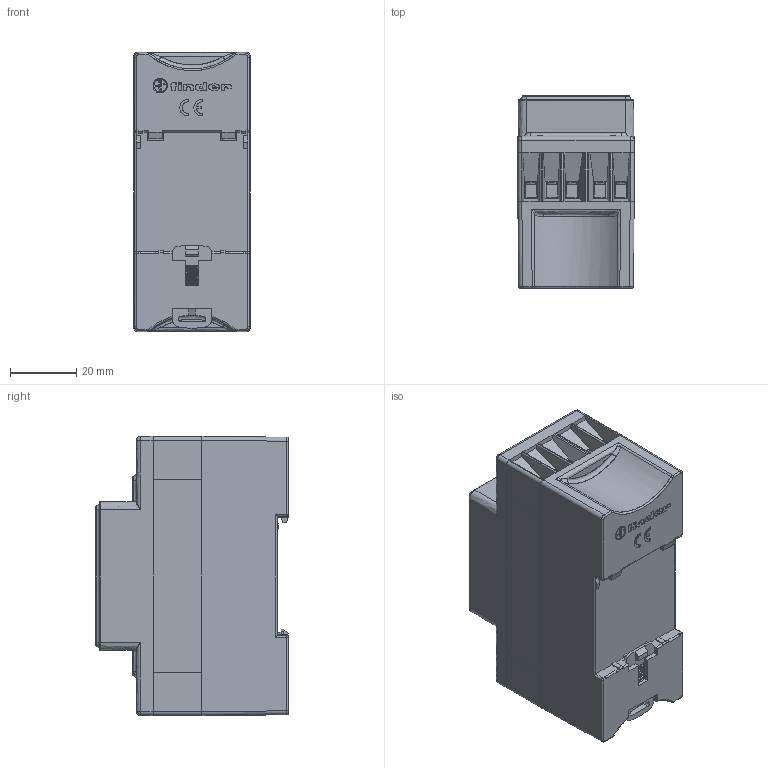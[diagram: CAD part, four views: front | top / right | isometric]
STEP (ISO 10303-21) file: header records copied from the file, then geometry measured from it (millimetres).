
FILE_DESCRIPTION(('STEP AP214'),'2;1');
FILE_NAME('7201.stp','2023-10-19T10:16:37',(''),(''),'2007.1.106','THINKDESIGN','');
FILE_SCHEMA(('AUTOMOTIVE_DESIGN'));
Length unit declared in the file: millimetre
Products named in the file (1): top
Bounding box: 35 x 58 x 84 mm (x, y, z)
Surface area: 27942.9 mm2 (no closed solid volume)
Topology: 0 solids, 0 shells, 1130 faces, 6393 edges, 6375 vertices
Faces by surface type: bspline 1130
Entity records: 52063 total; most frequent: CARTESIAN_POINT 35738, COMPOSITE_CURVE_SEGMENT 6377, QUASI_UNIFORM_CURVE 4279, B_SPLINE_CURVE_WITH_KNOTS 1297, OUTER_BOUNDARY_CURVE 1130, CURVE_BOUNDED_SURFACE 1130, STYLED_ITEM 1130, B_SPLINE_SURFACE_WITH_KNOTS 888
